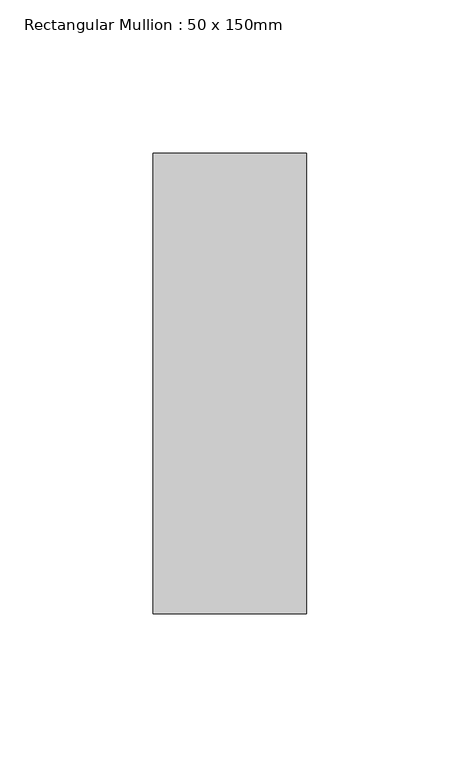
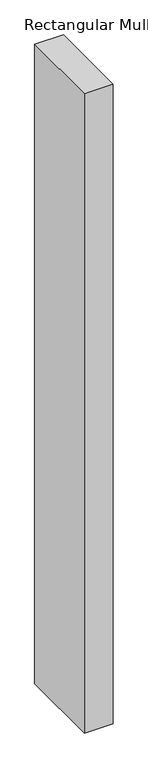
"""IFC4 building model written with IfcOpenShell, lengths in millimetres: member geometry, Rectangular Mullion : 50 x 150mm."""

from ifc_helpers import new_model, si_unit, frame, origin, place, context, project, spatial, polyline, outline, extrude, source, transform, mapped, element, save


def rectangular_mullion_50_x_150mm_44208fb9(model_context):
    return source(origin(), model_context, "Body", "SweptSolid", [
        extrude(outline(polyline([(0.0, 75.0), (0.0, -75.0), (-50.0, -75.0), (-50.0, 75.0), (0.0, 75.0)])), frame((0.0, 0.0, -1174.9999998), z_axis=(0.0, 0.0, 1.0), x_axis=(1.0, 0.0, 0.0)), (0.0, 0.0, 1.0), 1174.9999998),
    ])


if __name__ == "__main__":
    model = new_model("IFC4")
    model_context = context("Model", 3, world=origin())
    ifc_project = project(units=[si_unit("LENGTHUNIT", "METRE", prefix="MILLI")], contexts=[model_context])
    site = spatial("IfcSite", under=ifc_project)
    building = spatial("IfcBuilding", under=site)
    placement = place(None, origin())
    rectangular_mullion_50_x_150mm_shape = rectangular_mullion_50_x_150mm_44208fb9(model_context)
    element("IfcMember", 1, ObjectType="Rectangular Mullion : 50 x 150mm", at=placement, inside=building, context=model_context, shape_type="MappedRepresentation", body=[
        mapped(rectangular_mullion_50_x_150mm_shape, transform((0.0, 0.0, 0.0), x_axis=(1.0, 0.0, 0.0), y_axis=(0.0, 1.0, 0.0), z_axis=(0.0, 0.0, 1.0))),
    ])
    save(model, "model.ifc")
